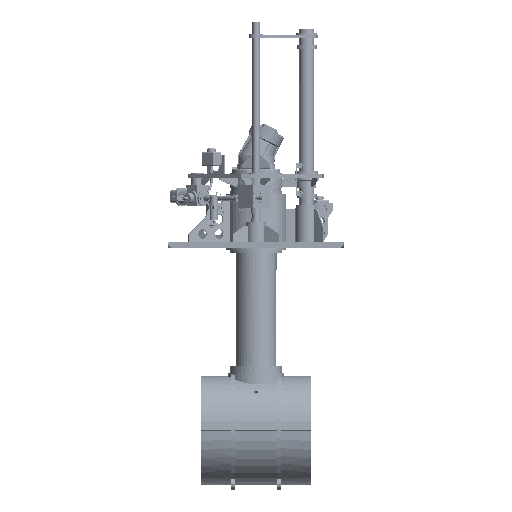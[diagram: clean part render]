
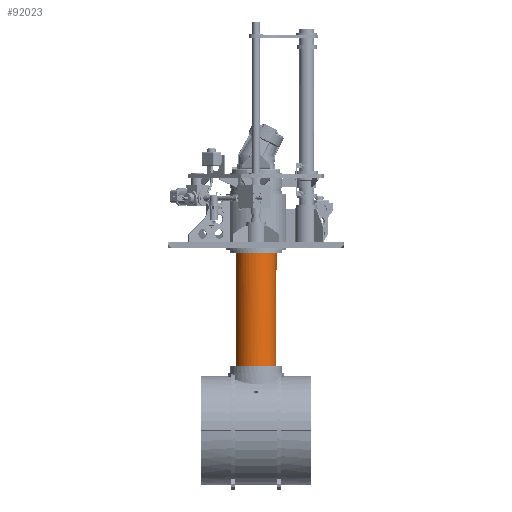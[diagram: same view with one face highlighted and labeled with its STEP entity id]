
A CAD part, front view. The second image highlights one B-rep face of the part: STEP entity #92023.
In plain terms, the highlighted cylindrical face has radius 160 mm (diameter 320 mm), a full revolution.
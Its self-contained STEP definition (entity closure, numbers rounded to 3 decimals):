
#7989=LINE('',#180751,#14413);
#14413=VECTOR('',#121079,160.);
#16919=CYLINDRICAL_SURFACE('',#99967,160.);
#22032=FACE_OUTER_BOUND('',#27518,.T.);
#27518=EDGE_LOOP('',(#75391,#75392,#75393,#75394,#75395,#75396,#75397));
#31458=CIRCLE('',#98412,160.);
#31459=CIRCLE('',#98413,160.);
#31460=CIRCLE('',#98414,160.);
#32337=CIRCLE('',#99952,160.);
#32338=CIRCLE('',#99953,160.);
#39108=VERTEX_POINT('',#171252);
#39109=VERTEX_POINT('',#171254);
#39110=VERTEX_POINT('',#171256);
#40378=VERTEX_POINT('',#180726);
#40379=VERTEX_POINT('',#180727);
#50538=EDGE_CURVE('',#39108,#39109,#31458,.T.);
#50539=EDGE_CURVE('',#39109,#39110,#31459,.T.);
#50540=EDGE_CURVE('',#39110,#39108,#31460,.T.);
#52415=EDGE_CURVE('',#40378,#40379,#32337,.T.);
#52416=EDGE_CURVE('',#40379,#40378,#32338,.T.);
#52427=EDGE_CURVE('',#39110,#40379,#7989,.T.);
#75391=ORIENTED_EDGE('',*,*,#50539,.F.);
#75392=ORIENTED_EDGE('',*,*,#50538,.F.);
#75393=ORIENTED_EDGE('',*,*,#50540,.F.);
#75394=ORIENTED_EDGE('',*,*,#52427,.T.);
#75395=ORIENTED_EDGE('',*,*,#52415,.F.);
#75396=ORIENTED_EDGE('',*,*,#52416,.F.);
#75397=ORIENTED_EDGE('',*,*,#52427,.F.);
#92023=ADVANCED_FACE('',(#22032),#16919,.T.);
#98412=AXIS2_PLACEMENT_3D('',#171255,#117427,#117428);
#98413=AXIS2_PLACEMENT_3D('',#171257,#117429,#117430);
#98414=AXIS2_PLACEMENT_3D('',#171258,#117431,#117432);
#99952=AXIS2_PLACEMENT_3D('',#180728,#121043,#121044);
#99953=AXIS2_PLACEMENT_3D('',#180729,#121045,#121046);
#99967=AXIS2_PLACEMENT_3D('',#180750,#121077,#121078);
#117427=DIRECTION('center_axis',(0.,0.,
1.));
#117428=DIRECTION('ref_axis',(0.,1.,0.));
#117429=DIRECTION('center_axis',(0.,0.,
1.));
#117430=DIRECTION('ref_axis',(0.,1.,0.));
#117431=DIRECTION('center_axis',(0.,0.,
1.));
#117432=DIRECTION('ref_axis',(0.,1.,0.));
#121043=DIRECTION('center_axis',(0.,0.,
-1.));
#121044=DIRECTION('ref_axis',(-0.707,0.707,0.));
#121045=DIRECTION('center_axis',(0.,0.,
-1.));
#121046=DIRECTION('ref_axis',(-0.707,0.707,0.));
#121077=DIRECTION('center_axis',(0.,0.,
1.));
#121078=DIRECTION('ref_axis',(0.707,-0.707,0.));
#121079=DIRECTION('',(0.,0.,-1.));
#171252=CARTESIAN_POINT('',(0.,-160.,-48.));
#171254=CARTESIAN_POINT('',(0.,160.,-48.));
#171255=CARTESIAN_POINT('Origin',(0.,0.,
-48.));
#171256=CARTESIAN_POINT('',(-113.137,113.137,-48.));
#171257=CARTESIAN_POINT('Origin',(0.,0.,
-48.));
#171258=CARTESIAN_POINT('Origin',(0.,0.,
-48.));
#180726=CARTESIAN_POINT('',(113.141,-113.134,-950.596));
#180727=CARTESIAN_POINT('',(-113.137,113.137,-950.596));
#180728=CARTESIAN_POINT('Origin',(0.,0.,
-950.596));
#180729=CARTESIAN_POINT('Origin',(0.,0.,
-950.596));
#180750=CARTESIAN_POINT('Origin',(0.,0.,
-952.));
#180751=CARTESIAN_POINT('',(-113.137,113.137,-952.));
